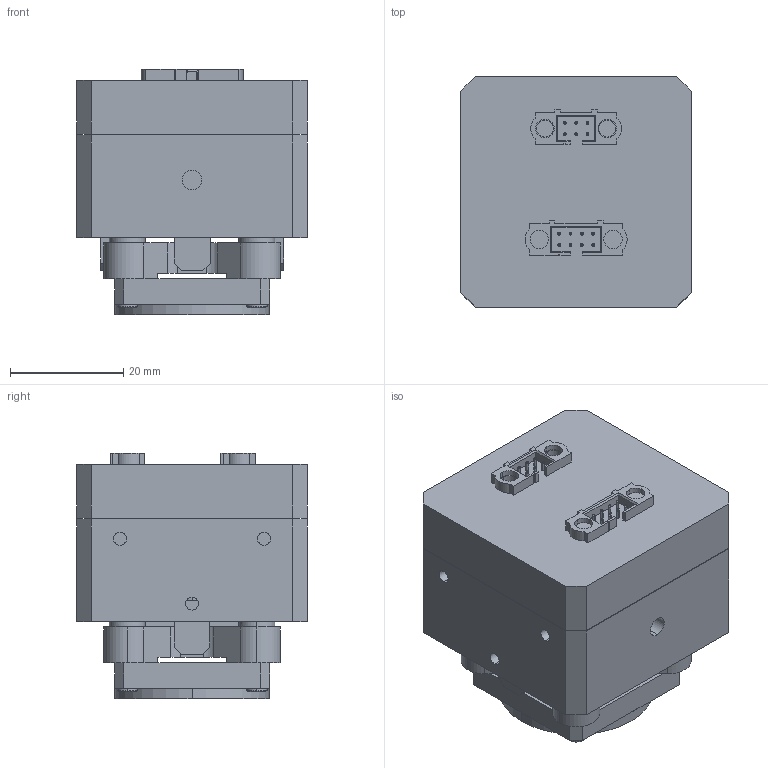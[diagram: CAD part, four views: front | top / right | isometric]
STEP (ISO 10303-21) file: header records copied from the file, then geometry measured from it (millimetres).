
FILE_DESCRIPTION (( 'STEP AP203' ), '1' );
FILE_NAME ('OIM5001 REV A, SIMPLIFIED STEP FILE.STEP', '2013-07-02T17:13:37', ( '' ), ( '' ), 'SwSTEP 2.0', 'SolidWorks 2011', '' );
FILE_SCHEMA (( 'CONFIG_CONTROL_DESIGN' ));
Length unit declared in the file: inch
Products named in the file (1): OIM5001 REV A, SIMPLIFIED STEP FILE
Bounding box: 40.64 x 40.64 x 43.37 mm (x, y, z)
Volume: 52353.8 mm3; surface area: 14969 mm2
Topology: 1 solids, 1 shells, 414 faces, 1084 edges, 702 vertices
Faces by surface type: plane 234, cylinder 144, cone 36
Entity records: 12857 total; most frequent: DIRECTION 2252, CARTESIAN_POINT 2201, ORIENTED_EDGE 2168, EDGE_CURVE 1084, AXIS2_PLACEMENT_3D 753, VECTOR 746, LINE 746, VERTEX_POINT 702
